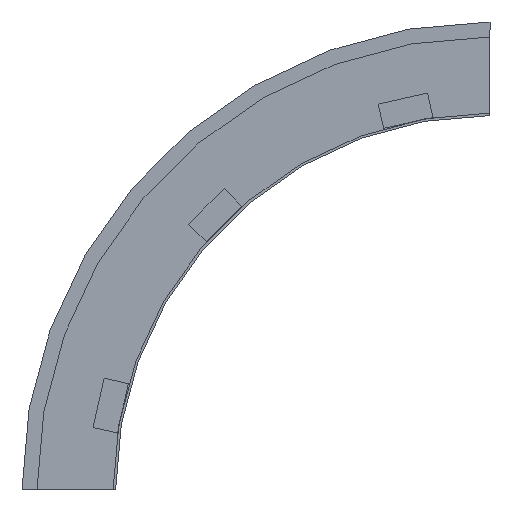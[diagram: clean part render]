
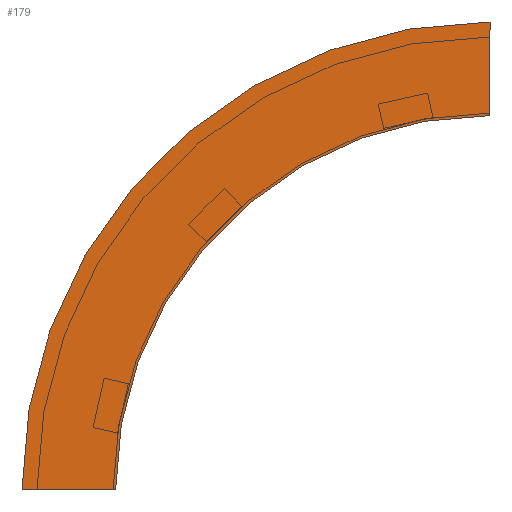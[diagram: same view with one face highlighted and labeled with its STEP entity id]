
A CAD part, left-side view. The second image highlights one B-rep face of the part: STEP entity #179.
In plain terms, the highlighted planar face has unit normal (-1, 0, 0) as drawn and (1, 0, 0) by its records, which use the part's own axes.
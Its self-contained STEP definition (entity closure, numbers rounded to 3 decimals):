
#16 = FACE_OUTER_BOUND ( 'NONE', #26, .T. ) ;
#22 = VERTEX_POINT ( 'NONE', #380 ) ;
#26 = EDGE_LOOP ( 'NONE', ( #408, #411, #149, #175 ) ) ;
#36 = AXIS2_PLACEMENT_3D ( 'NONE', #517, #477, #485 ) ;
#42 = CARTESIAN_POINT ( 'NONE',  ( 0., 0., 0. ) ) ;
#52 = CARTESIAN_POINT ( 'NONE',  ( 0., 0., 0. ) ) ;
#70 = EDGE_CURVE ( 'NONE', #491, #306, #86, .T. ) ;
#86 = CIRCLE ( 'NONE', #36, 300. ) ;
#97 = DIRECTION ( 'NONE',  ( 0., 0., -1. ) ) ;
#102 = DIRECTION ( 'NONE',  ( 0., 1., 0. ) ) ;
#109 = EDGE_CURVE ( 'NONE', #22, #263, #343, .T. ) ;
#113 = CARTESIAN_POINT ( 'NONE',  ( 0., -300., 0. ) ) ;
#137 = VECTOR ( 'NONE', #102, 1000. ) ;
#149 = ORIENTED_EDGE ( 'NONE', *, *, #70, .F. ) ;
#175 = ORIENTED_EDGE ( 'NONE', *, *, #358, .T. ) ;
#179 = ADVANCED_FACE ( 'NONE', ( #16 ), #457, .T. ) ;
#182 = AXIS2_PLACEMENT_3D ( 'NONE', #113, #421, #203 ) ;
#203 = DIRECTION ( 'NONE',  ( 0., 1., 0. ) ) ;
#218 = LINE ( 'NONE', #498, #488 ) ;
#246 = LINE ( 'NONE', #427, #137 ) ;
#263 = VERTEX_POINT ( 'NONE', #378 ) ;
#306 = VERTEX_POINT ( 'NONE', #469 ) ;
#343 = CIRCLE ( 'NONE', #182, 375. ) ;
#345 = DIRECTION ( 'NONE',  ( 0., 0., 1. ) ) ;
#358 = EDGE_CURVE ( 'NONE', #491, #22, #246, .T. ) ;
#361 = AXIS2_PLACEMENT_3D ( 'NONE', #52, #553, #97 ) ;
#378 = CARTESIAN_POINT ( 'NONE',  ( 0., -300., 375. ) ) ;
#380 = CARTESIAN_POINT ( 'NONE',  ( 0., 75., 0. ) ) ;
#408 = ORIENTED_EDGE ( 'NONE', *, *, #109, .T. ) ;
#411 = ORIENTED_EDGE ( 'NONE', *, *, #437, .F. ) ;
#421 = DIRECTION ( 'NONE',  ( 1., 0., 0. ) ) ;
#427 = CARTESIAN_POINT ( 'NONE',  ( 0., 0., 0. ) ) ;
#437 = EDGE_CURVE ( 'NONE', #306, #263, #218, .T. ) ;
#457 = PLANE ( 'NONE',  #361 ) ;
#469 = CARTESIAN_POINT ( 'NONE',  ( 0., -300., 300. ) ) ;
#477 = DIRECTION ( 'NONE',  ( 1., 0., 0. ) ) ;
#485 = DIRECTION ( 'NONE',  ( 0., 1., 0. ) ) ;
#488 = VECTOR ( 'NONE', #345, 1000. ) ;
#491 = VERTEX_POINT ( 'NONE', #42 ) ;
#498 = CARTESIAN_POINT ( 'NONE',  ( 0., -300., 300. ) ) ;
#517 = CARTESIAN_POINT ( 'NONE',  ( 0., -300., 0. ) ) ;
#553 = DIRECTION ( 'NONE',  ( 1., 0., 0. ) ) ;
